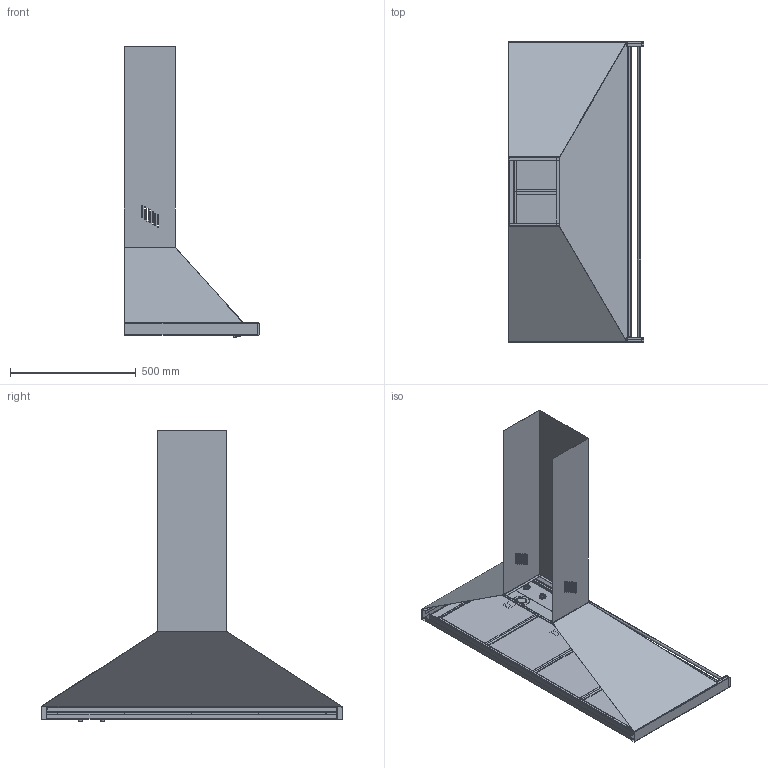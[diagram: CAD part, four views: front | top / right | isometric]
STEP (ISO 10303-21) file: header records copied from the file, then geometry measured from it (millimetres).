
FILE_DESCRIPTION(('CATIA V5 STEP Exchange'),'2;1');
FILE_NAME('\\sr02\Apell\Disegni\DISEGNI\SMEG\CAPPE\KD120HXE - 3971369\Assiemi\BIM\KD120HXE.stp','2018-02-13T12:11:09+00:00',('none'),('none'),'CATIA Version 5-6 Release 2014','CATIA V5 STEP AP203','none');
FILE_SCHEMA(('CONFIG_CONTROL_DESIGN'));
Length unit declared in the file: millimetre
Products named in the file (1): KD120HXE
Bounding box: 539.43 x 1199.85 x 1160.54 mm (x, y, z)
Volume: 2586627 mm3; surface area: 4411562.9 mm2
Topology: 19 solids, 19 shells, 700 faces, 1588 edges, 960 vertices
Faces by surface type: plane 521, cylinder 165, bspline 10, cone 4
Entity records: 18452 total; most frequent: CARTESIAN_POINT 3802, ORIENTED_EDGE 3176, DIRECTION 2494, EDGE_CURVE 1588, VECTOR 1204, LINE 1204, VERTEX_POINT 960, AXIS2_PLACEMENT_3D 789
